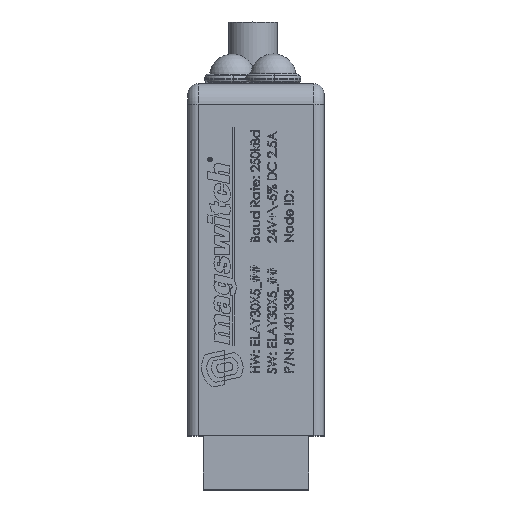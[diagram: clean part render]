
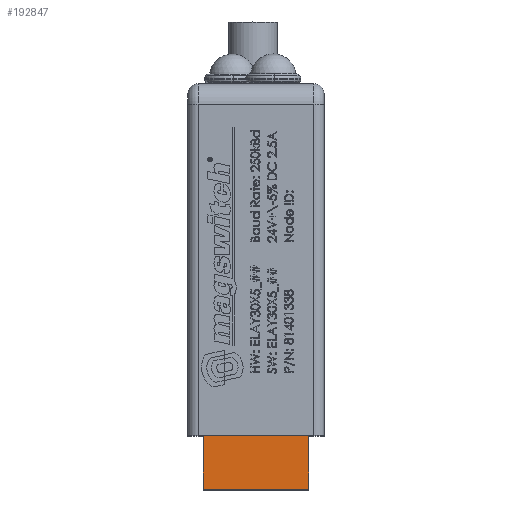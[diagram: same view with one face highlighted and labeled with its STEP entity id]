
A CAD part, top view. The second image highlights one B-rep face of the part: STEP entity #192847.
In plain terms, the highlighted planar face has unit normal (0, 0, 1).
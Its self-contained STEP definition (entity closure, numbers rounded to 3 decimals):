
#10255 = ORIENTED_EDGE ( 'NONE', *, *, #105354, .F. ) ;
#13344 = LINE ( 'NONE', #136398, #211286 ) ;
#15574 = VECTOR ( 'NONE', #270906, 1000. ) ;
#36478 = EDGE_CURVE ( 'NONE', #84000, #211207, #13344, .T. ) ;
#38517 = ORIENTED_EDGE ( 'NONE', *, *, #286305, .T. ) ;
#42247 = VECTOR ( 'NONE', #42654, 1000. ) ;
#42654 = DIRECTION ( 'NONE',  ( -1., 0., 0. ) ) ;
#57126 = CARTESIAN_POINT ( 'NONE',  ( 20.5, 0., 93.1 ) ) ;
#59015 = VERTEX_POINT ( 'NONE', #81008 ) ;
#62038 = DIRECTION ( 'NONE',  ( -1., 0., 0. ) ) ;
#79268 = EDGE_LOOP ( 'NONE', ( #176875, #38517, #10255, #114429 ) ) ;
#81008 = CARTESIAN_POINT ( 'NONE',  ( -20.5, 24.4, 93.1 ) ) ;
#84000 = VERTEX_POINT ( 'NONE', #57126 ) ;
#97471 = CARTESIAN_POINT ( 'NONE',  ( -20.5, 0., 93.1 ) ) ;
#105354 = EDGE_CURVE ( 'NONE', #197777, #59015, #173010, .T. ) ;
#112332 = CARTESIAN_POINT ( 'NONE',  ( -20.5, 0., 93.1 ) ) ;
#114429 = ORIENTED_EDGE ( 'NONE', *, *, #286475, .T. ) ;
#114723 = DIRECTION ( 'NONE',  ( 0., 1., 0. ) ) ;
#121910 = VECTOR ( 'NONE', #314772, 1000. ) ;
#136398 = CARTESIAN_POINT ( 'NONE',  ( 20.5, -117.58, 93.1 ) ) ;
#142966 = CARTESIAN_POINT ( 'NONE',  ( -20.5, -117.58, 93.1 ) ) ;
#159955 = DIRECTION ( 'NONE',  ( 0., 0., 1. ) ) ;
#161117 = CARTESIAN_POINT ( 'NONE',  ( 20.5, 24.4, 93.1 ) ) ;
#163905 = LINE ( 'NONE', #265100, #42247 ) ;
#173010 = LINE ( 'NONE', #272583, #15574 ) ;
#176875 = ORIENTED_EDGE ( 'NONE', *, *, #36478, .T. ) ;
#192847 = ADVANCED_FACE ( 'NONE', ( #254666 ), #204903, .T. ) ;
#197777 = VERTEX_POINT ( 'NONE', #97471 ) ;
#204903 = PLANE ( 'NONE',  #309315 ) ;
#211207 = VERTEX_POINT ( 'NONE', #161117 ) ;
#211286 = VECTOR ( 'NONE', #114723, 1000. ) ;
#254666 = FACE_OUTER_BOUND ( 'NONE', #79268, .T. ) ;
#261665 = LINE ( 'NONE', #112332, #121910 ) ;
#265100 = CARTESIAN_POINT ( 'NONE',  ( -20.5, 24.4, 93.1 ) ) ;
#270906 = DIRECTION ( 'NONE',  ( 0., 1., 0. ) ) ;
#272583 = CARTESIAN_POINT ( 'NONE',  ( -20.5, -117.58, 93.1 ) ) ;
#286305 = EDGE_CURVE ( 'NONE', #211207, #59015, #163905, .T. ) ;
#286475 = EDGE_CURVE ( 'NONE', #197777, #84000, #261665, .T. ) ;
#309315 = AXIS2_PLACEMENT_3D ( 'NONE', #142966, #159955, #62038 ) ;
#314772 = DIRECTION ( 'NONE',  ( 1., 0., 0. ) ) ;
